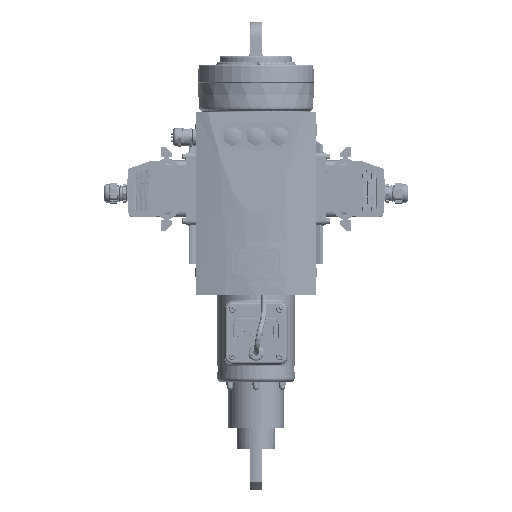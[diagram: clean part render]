
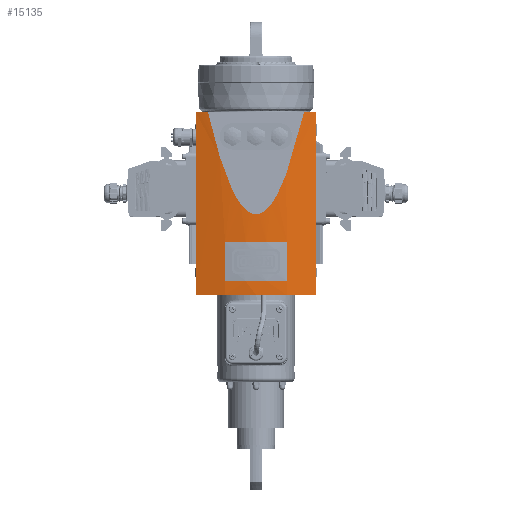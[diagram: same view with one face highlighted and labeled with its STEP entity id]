
A CAD part, top view. The second image highlights one B-rep face of the part: STEP entity #15135.
In plain terms, the highlighted cylindrical face has radius 282 mm (diameter 564 mm), a partial arc.
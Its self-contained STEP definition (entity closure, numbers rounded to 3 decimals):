
#15135 = ADVANCED_FACE( '', ( #37315, #37316 ), #37317, .T. );
#37315 = FACE_OUTER_BOUND( '', #89136, .T. );
#37316 = FACE_BOUND( '', #89137, .T. );
#37317 = CYLINDRICAL_SURFACE( '', #89138, 282. );
#89136 = EDGE_LOOP( '', ( #181411, #181412, #181413, #181414, #181415, #181416 ) );
#89137 = EDGE_LOOP( '', ( #181417, #181418, #181419, #181420 ) );
#89138 = AXIS2_PLACEMENT_3D( '', #181421, #181422, #181423 );
#181411 = ORIENTED_EDGE( '', *, *, #242659, .T. );
#181412 = ORIENTED_EDGE( '', *, *, #242660, .T. );
#181413 = ORIENTED_EDGE( '', *, *, #242661, .F. );
#181414 = ORIENTED_EDGE( '', *, *, #242662, .T. );
#181415 = ORIENTED_EDGE( '', *, *, #242663, .F. );
#181416 = ORIENTED_EDGE( '', *, *, #242664, .T. );
#181417 = ORIENTED_EDGE( '', *, *, #242665, .T. );
#181418 = ORIENTED_EDGE( '', *, *, #242666, .T. );
#181419 = ORIENTED_EDGE( '', *, *, #242667, .T. );
#181420 = ORIENTED_EDGE( '', *, *, #242668, .T. );
#181421 = CARTESIAN_POINT( '', ( 0., 89.4, -91.5 ) );
#181422 = DIRECTION( '', ( 0., -1., 0. ) );
#181423 = DIRECTION( '', ( 0.277, 0., 0.961 ) );
#242659 = EDGE_CURVE( '', #276740, #276741, #276742, .T. );
#242660 = EDGE_CURVE( '', #276741, #276743, #276744, .T. );
#242661 = EDGE_CURVE( '', #276745, #276743, #276746, .T. );
#242662 = EDGE_CURVE( '', #276745, #276747, #276748, .T. );
#242663 = EDGE_CURVE( '', #276749, #276747, #276750, .T. );
#242664 = EDGE_CURVE( '', #276749, #276740, #276751, .T. );
#242665 = EDGE_CURVE( '', #276752, #276753, #276754, .T. );
#242666 = EDGE_CURVE( '', #276753, #276755, #276756, .T. );
#242667 = EDGE_CURVE( '', #276755, #276757, #276758, .T. );
#242668 = EDGE_CURVE( '', #276757, #276752, #276759, .T. );
#276740 = VERTEX_POINT( '', #337914 );
#276741 = VERTEX_POINT( '', #337915 );
#276742 = ELLIPSE( '', #337916, 5388.265, 282. );
#276743 = VERTEX_POINT( '', #337917 );
#276744 = CIRCLE( '', #337918, 282. );
#276745 = VERTEX_POINT( '', #337919 );
#276746 = LINE( '', #337920, #337921 );
#276747 = VERTEX_POINT( '', #337922 );
#276748 = CIRCLE( '', #337923, 282. );
#276749 = VERTEX_POINT( '', #337924 );
#276750 = LINE( '', #337925, #337926 );
#276751 = CIRCLE( '', #337927, 282. );
#276752 = VERTEX_POINT( '', #337928 );
#276753 = VERTEX_POINT( '', #337929 );
#276754 = LINE( '', #337930, #337931 );
#276755 = VERTEX_POINT( '', #337932 );
#276756 = CIRCLE( '', #337933, 282. );
#276757 = VERTEX_POINT( '', #337934 );
#276758 = LINE( '', #337935, #337936 );
#276759 = CIRCLE( '', #337937, 282. );
#337914 = CARTESIAN_POINT( '', ( -62.079, -28.6, 183.582 ) );
#337915 = CARTESIAN_POINT( '', ( 62.079, -28.6, 183.582 ) );
#337916 = AXIS2_PLACEMENT_3D( '', #392716, #392717, #392718 );
#337917 = CARTESIAN_POINT( '', ( 78., -28.6, 179.498 ) );
#337918 = AXIS2_PLACEMENT_3D( '', #392719, #392720, #392721 );
#337919 = CARTESIAN_POINT( '', ( 78., 207.4, 179.498 ) );
#337920 = CARTESIAN_POINT( '', ( 78., 207.4, 179.498 ) );
#337921 = VECTOR( '', #392722, 1000. );
#337922 = CARTESIAN_POINT( '', ( -78., 207.4, 179.498 ) );
#337923 = AXIS2_PLACEMENT_3D( '', #392723, #392724, #392725 );
#337924 = CARTESIAN_POINT( '', ( -78., -28.6, 179.498 ) );
#337925 = CARTESIAN_POINT( '', ( -78., -28.6, 179.498 ) );
#337926 = VECTOR( '', #392726, 1000. );
#337927 = AXIS2_PLACEMENT_3D( '', #392727, #392728, #392729 );
#337928 = CARTESIAN_POINT( '', ( 40., 189.4, 187.649 ) );
#337929 = CARTESIAN_POINT( '', ( 40., 139.4, 187.649 ) );
#337930 = CARTESIAN_POINT( '', ( 40., 189.4, 187.649 ) );
#337931 = VECTOR( '', #392730, 1000. );
#337932 = CARTESIAN_POINT( '', ( -40., 139.4, 187.649 ) );
#337933 = AXIS2_PLACEMENT_3D( '', #392731, #392732, #392733 );
#337934 = CARTESIAN_POINT( '', ( -40., 189.4, 187.649 ) );
#337935 = CARTESIAN_POINT( '', ( -40., 139.4, 187.649 ) );
#337936 = VECTOR( '', #392734, 1000. );
#337937 = AXIS2_PLACEMENT_3D( '', #392735, #392736, #392737 );
#392716 = CARTESIAN_POINT( '', ( 0., -5277.481, -91.5 ) );
#392717 = DIRECTION( '', ( 0., 0.052, -0.999 ) );
#392718 = DIRECTION( '', ( 0., 0.999, 0.052 ) );
#392719 = CARTESIAN_POINT( '', ( 0., -28.6, -91.5 ) );
#392720 = DIRECTION( '', ( 0., 1., 0. ) );
#392721 = DIRECTION( '', ( 0.277, 0., 0.961 ) );
#392722 = DIRECTION( '', ( 0., -1., 0. ) );
#392723 = CARTESIAN_POINT( '', ( 0., 207.4, -91.5 ) );
#392724 = DIRECTION( '', ( 0., -1., 0. ) );
#392725 = DIRECTION( '', ( 0.277, 0., 0.961 ) );
#392726 = DIRECTION( '', ( 0., 1., 0. ) );
#392727 = CARTESIAN_POINT( '', ( 0., -28.6, -91.5 ) );
#392728 = DIRECTION( '', ( 0., 1., 0. ) );
#392729 = DIRECTION( '', ( 0.277, 0., 0.961 ) );
#392730 = DIRECTION( '', ( 0., -1., 0. ) );
#392731 = CARTESIAN_POINT( '', ( 0., 139.4, -91.5 ) );
#392732 = DIRECTION( '', ( 0., -1., 0. ) );
#392733 = DIRECTION( '', ( 0.277, 0., 0.961 ) );
#392734 = DIRECTION( '', ( 0., 1., 0. ) );
#392735 = CARTESIAN_POINT( '', ( 0., 189.4, -91.5 ) );
#392736 = DIRECTION( '', ( 0., 1., 0. ) );
#392737 = DIRECTION( '', ( 0.277, 0., 0.961 ) );
